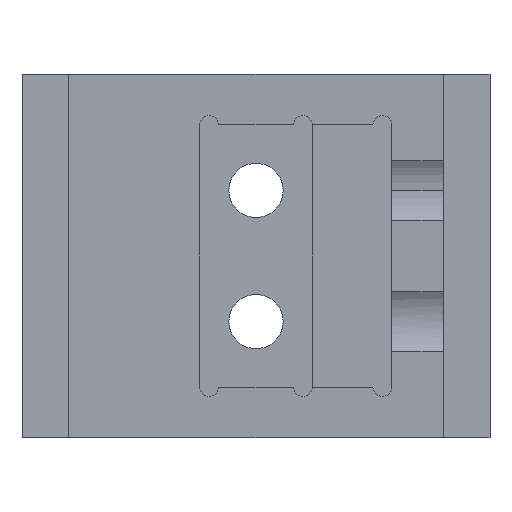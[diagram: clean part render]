
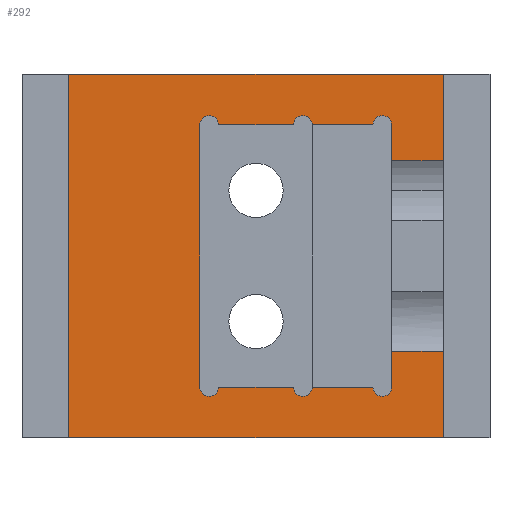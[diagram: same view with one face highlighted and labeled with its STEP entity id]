
A CAD part, left-side view. The second image highlights one B-rep face of the part: STEP entity #292.
In plain terms, the highlighted planar face has unit normal (-1, 0, 0).
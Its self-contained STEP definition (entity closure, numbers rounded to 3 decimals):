
#146=AXIS2_PLACEMENT_3D('Plane Axis2P3D',#143,#144,#145) ;
#150=AXIS2_PLACEMENT_3D('Circle Axis2P3D',#148,#149,$) ;
#164=AXIS2_PLACEMENT_3D('Circle Axis2P3D',#162,#163,$) ;
#178=AXIS2_PLACEMENT_3D('Circle Axis2P3D',#176,#177,$) ;
#192=AXIS2_PLACEMENT_3D('Circle Axis2P3D',#190,#191,$) ;
#206=AXIS2_PLACEMENT_3D('Circle Axis2P3D',#204,#205,$) ;
#220=AXIS2_PLACEMENT_3D('Circle Axis2P3D',#218,#219,$) ;
#88=CARTESIAN_POINT('Vertex',(15.,-31.5,9.266)) ;
#91=CARTESIAN_POINT('Line Origine',(15.,-31.5,11.183)) ;
#95=CARTESIAN_POINT('Vertex',(15.,-31.5,13.1)) ;
#116=CARTESIAN_POINT('Vertex',(15.,-31.5,-14.9)) ;
#119=CARTESIAN_POINT('Line Origine',(15.,-31.5,-12.983)) ;
#123=CARTESIAN_POINT('Vertex',(15.,-31.5,-11.066)) ;
#143=CARTESIAN_POINT('Axis2P3D Location',(15.,8.,18.5)) ;
#148=CARTESIAN_POINT('Axis2P3D Location',(15.,-30.5,-14.9)) ;
#152=CARTESIAN_POINT('Vertex',(15.,-29.5,-14.9)) ;
#155=CARTESIAN_POINT('Line Origine',(15.,-26.25,-14.9)) ;
#159=CARTESIAN_POINT('Vertex',(15.,-23.,-14.9)) ;
#162=CARTESIAN_POINT('Axis2P3D Location',(15.,-22.,-14.9)) ;
#166=CARTESIAN_POINT('Vertex',(15.,-21.,-14.9)) ;
#169=CARTESIAN_POINT('Line Origine',(15.,-17.,-14.9)) ;
#173=CARTESIAN_POINT('Vertex',(15.,-13.,-14.9)) ;
#176=CARTESIAN_POINT('Axis2P3D Location',(15.,-12.,-14.9)) ;
#180=CARTESIAN_POINT('Vertex',(15.,-11.,-14.9)) ;
#183=CARTESIAN_POINT('Line Origine',(15.,-11.,-0.9)) ;
#187=CARTESIAN_POINT('Vertex',(15.,-11.,13.1)) ;
#190=CARTESIAN_POINT('Axis2P3D Location',(15.,-12.,13.1)) ;
#194=CARTESIAN_POINT('Vertex',(15.,-13.,13.1)) ;
#197=CARTESIAN_POINT('Line Origine',(15.,-17.,13.1)) ;
#201=CARTESIAN_POINT('Vertex',(15.,-21.,13.1)) ;
#204=CARTESIAN_POINT('Axis2P3D Location',(15.,-22.,13.1)) ;
#208=CARTESIAN_POINT('Vertex',(15.,-23.,13.1)) ;
#211=CARTESIAN_POINT('Line Origine',(15.,-26.25,13.1)) ;
#215=CARTESIAN_POINT('Vertex',(15.,-29.5,13.1)) ;
#218=CARTESIAN_POINT('Axis2P3D Location',(15.,-30.5,13.1)) ;
#223=CARTESIAN_POINT('Line Origine',(15.,-34.25,9.266)) ;
#227=CARTESIAN_POINT('Vertex',(15.,-37.,9.266)) ;
#230=CARTESIAN_POINT('Line Origine',(15.,-37.,13.883)) ;
#234=CARTESIAN_POINT('Vertex',(15.,-37.,18.5)) ;
#237=CARTESIAN_POINT('Line Origine',(15.,-17.,18.5)) ;
#241=CARTESIAN_POINT('Vertex',(15.,3.,18.5)) ;
#244=CARTESIAN_POINT('Line Origine',(15.,3.,-0.9)) ;
#248=CARTESIAN_POINT('Vertex',(15.,3.,-20.3)) ;
#251=CARTESIAN_POINT('Line Origine',(15.,-17.,-20.3)) ;
#255=CARTESIAN_POINT('Vertex',(15.,-37.,-20.3)) ;
#258=CARTESIAN_POINT('Line Origine',(15.,-37.,-15.683)) ;
#262=CARTESIAN_POINT('Vertex',(15.,-37.,-11.066)) ;
#265=CARTESIAN_POINT('Line Origine',(15.,-34.25,-11.066)) ;
#92=DIRECTION('Vector Direction',(0.,0.,1.)) ;
#120=DIRECTION('Vector Direction',(0.,0.,1.)) ;
#144=DIRECTION('Axis2P3D Direction',(-1.,-0.,0.)) ;
#145=DIRECTION('Axis2P3D XDirection',(0.,-0.,-1.)) ;
#149=DIRECTION('Axis2P3D Direction',(-1.,-0.,0.)) ;
#156=DIRECTION('Vector Direction',(0.,1.,0.)) ;
#163=DIRECTION('Axis2P3D Direction',(-1.,-0.,0.)) ;
#170=DIRECTION('Vector Direction',(0.,1.,0.)) ;
#177=DIRECTION('Axis2P3D Direction',(-1.,-0.,0.)) ;
#184=DIRECTION('Vector Direction',(0.,0.,-1.)) ;
#191=DIRECTION('Axis2P3D Direction',(-1.,-0.,0.)) ;
#198=DIRECTION('Vector Direction',(0.,-1.,0.)) ;
#205=DIRECTION('Axis2P3D Direction',(-1.,-0.,0.)) ;
#212=DIRECTION('Vector Direction',(0.,-1.,0.)) ;
#219=DIRECTION('Axis2P3D Direction',(-1.,-0.,0.)) ;
#224=DIRECTION('Vector Direction',(0.,-1.,0.)) ;
#231=DIRECTION('Vector Direction',(0.,0.,1.)) ;
#238=DIRECTION('Vector Direction',(0.,-1.,0.)) ;
#245=DIRECTION('Vector Direction',(0.,0.,1.)) ;
#252=DIRECTION('Vector Direction',(0.,-1.,0.)) ;
#259=DIRECTION('Vector Direction',(0.,0.,1.)) ;
#266=DIRECTION('Vector Direction',(0.,-1.,0.)) ;
#93=VECTOR('Line Direction',#92,1.) ;
#121=VECTOR('Line Direction',#120,1.) ;
#157=VECTOR('Line Direction',#156,1.) ;
#171=VECTOR('Line Direction',#170,1.) ;
#185=VECTOR('Line Direction',#184,1.) ;
#199=VECTOR('Line Direction',#198,1.) ;
#213=VECTOR('Line Direction',#212,1.) ;
#225=VECTOR('Line Direction',#224,1.) ;
#232=VECTOR('Line Direction',#231,1.) ;
#239=VECTOR('Line Direction',#238,1.) ;
#246=VECTOR('Line Direction',#245,1.) ;
#253=VECTOR('Line Direction',#252,1.) ;
#260=VECTOR('Line Direction',#259,1.) ;
#267=VECTOR('Line Direction',#266,1.) ;
#271=ORIENTED_EDGE('',*,*,#125,.F.) ;
#272=ORIENTED_EDGE('',*,*,#154,.F.) ;
#273=ORIENTED_EDGE('',*,*,#161,.F.) ;
#274=ORIENTED_EDGE('',*,*,#168,.F.) ;
#275=ORIENTED_EDGE('',*,*,#175,.F.) ;
#276=ORIENTED_EDGE('',*,*,#182,.F.) ;
#277=ORIENTED_EDGE('',*,*,#189,.F.) ;
#278=ORIENTED_EDGE('',*,*,#196,.F.) ;
#279=ORIENTED_EDGE('',*,*,#203,.F.) ;
#280=ORIENTED_EDGE('',*,*,#210,.F.) ;
#281=ORIENTED_EDGE('',*,*,#217,.F.) ;
#282=ORIENTED_EDGE('',*,*,#222,.F.) ;
#283=ORIENTED_EDGE('',*,*,#97,.F.) ;
#284=ORIENTED_EDGE('',*,*,#229,.T.) ;
#285=ORIENTED_EDGE('',*,*,#236,.T.) ;
#286=ORIENTED_EDGE('',*,*,#243,.F.) ;
#287=ORIENTED_EDGE('',*,*,#250,.F.) ;
#288=ORIENTED_EDGE('',*,*,#257,.T.) ;
#289=ORIENTED_EDGE('',*,*,#264,.T.) ;
#290=ORIENTED_EDGE('',*,*,#269,.F.) ;
#292=ADVANCED_FACE('\X2\96F64EF651E04F554F53\X0\',(#291),#147,.T.) ;
#151=CIRCLE('generated circle',#150,1.) ;
#165=CIRCLE('generated circle',#164,1.) ;
#179=CIRCLE('generated circle',#178,1.) ;
#193=CIRCLE('generated circle',#192,1.) ;
#207=CIRCLE('generated circle',#206,1.) ;
#221=CIRCLE('generated circle',#220,1.) ;
#97=EDGE_CURVE('',#89,#96,#94,.T.) ;
#125=EDGE_CURVE('',#117,#124,#122,.T.) ;
#154=EDGE_CURVE('',#153,#117,#151,.T.) ;
#161=EDGE_CURVE('',#160,#153,#158,.F.) ;
#168=EDGE_CURVE('',#167,#160,#165,.T.) ;
#175=EDGE_CURVE('',#174,#167,#172,.F.) ;
#182=EDGE_CURVE('',#181,#174,#179,.T.) ;
#189=EDGE_CURVE('',#188,#181,#186,.T.) ;
#196=EDGE_CURVE('',#195,#188,#193,.T.) ;
#203=EDGE_CURVE('',#202,#195,#200,.F.) ;
#210=EDGE_CURVE('',#209,#202,#207,.T.) ;
#217=EDGE_CURVE('',#216,#209,#214,.F.) ;
#222=EDGE_CURVE('',#96,#216,#221,.T.) ;
#229=EDGE_CURVE('',#89,#228,#226,.T.) ;
#236=EDGE_CURVE('',#228,#235,#233,.T.) ;
#243=EDGE_CURVE('',#242,#235,#240,.T.) ;
#250=EDGE_CURVE('',#249,#242,#247,.T.) ;
#257=EDGE_CURVE('',#249,#256,#254,.T.) ;
#264=EDGE_CURVE('',#256,#263,#261,.T.) ;
#269=EDGE_CURVE('',#124,#263,#268,.T.) ;
#270=EDGE_LOOP('',(#271,#272,#273,#274,#275,#276,#277,#278,#279,#280,#281,#282,#283,#284,#285,#286,#287,#288,#289,#290)) ;
#291=FACE_OUTER_BOUND('',#270,.T.) ;
#94=LINE('Line',#91,#93) ;
#122=LINE('Line',#119,#121) ;
#158=LINE('Line',#155,#157) ;
#172=LINE('Line',#169,#171) ;
#186=LINE('Line',#183,#185) ;
#200=LINE('Line',#197,#199) ;
#214=LINE('Line',#211,#213) ;
#226=LINE('Line',#223,#225) ;
#233=LINE('Line',#230,#232) ;
#240=LINE('Line',#237,#239) ;
#247=LINE('Line',#244,#246) ;
#254=LINE('Line',#251,#253) ;
#261=LINE('Line',#258,#260) ;
#268=LINE('Line',#265,#267) ;
#147=PLANE('',#146) ;
#89=VERTEX_POINT('',#88) ;
#96=VERTEX_POINT('',#95) ;
#117=VERTEX_POINT('',#116) ;
#124=VERTEX_POINT('',#123) ;
#153=VERTEX_POINT('',#152) ;
#160=VERTEX_POINT('',#159) ;
#167=VERTEX_POINT('',#166) ;
#174=VERTEX_POINT('',#173) ;
#181=VERTEX_POINT('',#180) ;
#188=VERTEX_POINT('',#187) ;
#195=VERTEX_POINT('',#194) ;
#202=VERTEX_POINT('',#201) ;
#209=VERTEX_POINT('',#208) ;
#216=VERTEX_POINT('',#215) ;
#228=VERTEX_POINT('',#227) ;
#235=VERTEX_POINT('',#234) ;
#242=VERTEX_POINT('',#241) ;
#249=VERTEX_POINT('',#248) ;
#256=VERTEX_POINT('',#255) ;
#263=VERTEX_POINT('',#262) ;
